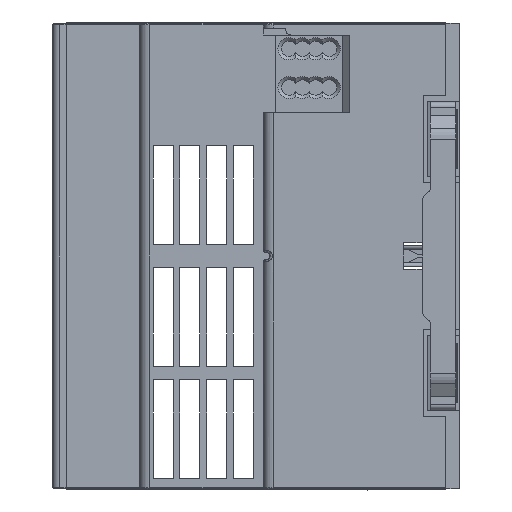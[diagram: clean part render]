
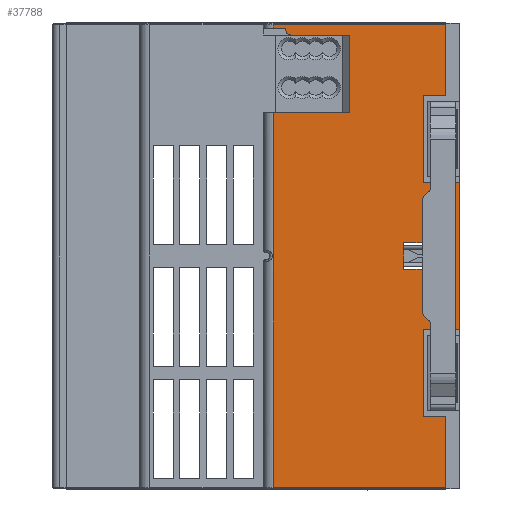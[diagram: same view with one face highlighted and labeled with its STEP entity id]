
A CAD part, left-side view. The second image highlights one B-rep face of the part: STEP entity #37788.
In plain terms, the highlighted planar face has unit normal (-1, 0, 0).
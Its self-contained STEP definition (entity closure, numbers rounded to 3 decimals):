
#1153=CIRCLE('',#46242,0.8);
#8891=ORIENTED_EDGE('',*,*,#15711,.F.);
#8892=ORIENTED_EDGE('',*,*,#15712,.T.);
#8893=ORIENTED_EDGE('',*,*,#15713,.F.);
#8894=ORIENTED_EDGE('',*,*,#15714,.T.);
#8895=ORIENTED_EDGE('',*,*,#15715,.T.);
#8896=ORIENTED_EDGE('',*,*,#15716,.F.);
#8897=ORIENTED_EDGE('',*,*,#15717,.F.);
#8898=ORIENTED_EDGE('',*,*,#15718,.F.);
#8899=ORIENTED_EDGE('',*,*,#15719,.T.);
#8900=ORIENTED_EDGE('',*,*,#15720,.T.);
#8901=ORIENTED_EDGE('',*,*,#15721,.F.);
#8902=ORIENTED_EDGE('',*,*,#15722,.F.);
#8903=ORIENTED_EDGE('',*,*,#15723,.T.);
#8904=ORIENTED_EDGE('',*,*,#15724,.F.);
#8905=ORIENTED_EDGE('',*,*,#15725,.F.);
#8906=ORIENTED_EDGE('',*,*,#15726,.F.);
#8907=ORIENTED_EDGE('',*,*,#15727,.T.);
#8908=ORIENTED_EDGE('',*,*,#15728,.F.);
#8909=ORIENTED_EDGE('',*,*,#15729,.F.);
#8910=ORIENTED_EDGE('',*,*,#15730,.F.);
#8911=ORIENTED_EDGE('',*,*,#15731,.F.);
#8912=ORIENTED_EDGE('',*,*,#15732,.F.);
#8913=ORIENTED_EDGE('',*,*,#15733,.F.);
#8914=ORIENTED_EDGE('',*,*,#15734,.F.);
#8915=ORIENTED_EDGE('',*,*,#15735,.T.);
#8916=ORIENTED_EDGE('',*,*,#15736,.T.);
#8917=ORIENTED_EDGE('',*,*,#15737,.T.);
#15711=EDGE_CURVE('',#20178,#20179,#24981,.T.);
#15712=EDGE_CURVE('',#20178,#20180,#24982,.T.);
#15713=EDGE_CURVE('',#20181,#20180,#24983,.T.);
#15714=EDGE_CURVE('',#20181,#20182,#24984,.T.);
#15715=EDGE_CURVE('',#20182,#20183,#24985,.T.);
#15716=EDGE_CURVE('',#20184,#20183,#24986,.T.);
#15717=EDGE_CURVE('',#20185,#20184,#24987,.T.);
#15718=EDGE_CURVE('',#20179,#20185,#24988,.T.);
#15719=EDGE_CURVE('',#20186,#20187,#24989,.T.);
#15720=EDGE_CURVE('',#20187,#20188,#24990,.T.);
#15721=EDGE_CURVE('',#20189,#20188,#24991,.T.);
#15722=EDGE_CURVE('',#20190,#20189,#24992,.T.);
#15723=EDGE_CURVE('',#20190,#20191,#24993,.T.);
#15724=EDGE_CURVE('',#20192,#20191,#24994,.T.);
#15725=EDGE_CURVE('',#20193,#20192,#24995,.T.);
#15726=EDGE_CURVE('',#20194,#20193,#24996,.T.);
#15727=EDGE_CURVE('',#20194,#20195,#24997,.T.);
#15728=EDGE_CURVE('',#20196,#20195,#24998,.T.);
#15729=EDGE_CURVE('',#20197,#20196,#24999,.T.);
#15730=EDGE_CURVE('',#20198,#20197,#25000,.T.);
#15731=EDGE_CURVE('',#20199,#20198,#25001,.T.);
#15732=EDGE_CURVE('',#20200,#20199,#25002,.T.);
#15733=EDGE_CURVE('',#20201,#20200,#25003,.T.);
#15734=EDGE_CURVE('',#20202,#20201,#25004,.T.);
#15735=EDGE_CURVE('',#20202,#20203,#25005,.T.);
#15736=EDGE_CURVE('',#20203,#20204,#25006,.T.);
#15737=EDGE_CURVE('',#20204,#20186,#1153,.T.);
#20178=VERTEX_POINT('',#66611);
#20179=VERTEX_POINT('',#66612);
#20180=VERTEX_POINT('',#66614);
#20181=VERTEX_POINT('',#66616);
#20182=VERTEX_POINT('',#66618);
#20183=VERTEX_POINT('',#66620);
#20184=VERTEX_POINT('',#66622);
#20185=VERTEX_POINT('',#66624);
#20186=VERTEX_POINT('',#66627);
#20187=VERTEX_POINT('',#66628);
#20188=VERTEX_POINT('',#66630);
#20189=VERTEX_POINT('',#66632);
#20190=VERTEX_POINT('',#66634);
#20191=VERTEX_POINT('',#66636);
#20192=VERTEX_POINT('',#66638);
#20193=VERTEX_POINT('',#66640);
#20194=VERTEX_POINT('',#66642);
#20195=VERTEX_POINT('',#66644);
#20196=VERTEX_POINT('',#66646);
#20197=VERTEX_POINT('',#66648);
#20198=VERTEX_POINT('',#66650);
#20199=VERTEX_POINT('',#66652);
#20200=VERTEX_POINT('',#66654);
#20201=VERTEX_POINT('',#66656);
#20202=VERTEX_POINT('',#66658);
#20203=VERTEX_POINT('',#66660);
#20204=VERTEX_POINT('',#66662);
#24981=LINE('',#66610,#29962);
#24982=LINE('',#66613,#29963);
#24983=LINE('',#66615,#29964);
#24984=LINE('',#66617,#29965);
#24985=LINE('',#66619,#29966);
#24986=LINE('',#66621,#29967);
#24987=LINE('',#66623,#29968);
#24988=LINE('',#66625,#29969);
#24989=LINE('',#66626,#29970);
#24990=LINE('',#66629,#29971);
#24991=LINE('',#66631,#29972);
#24992=LINE('',#66633,#29973);
#24993=LINE('',#66635,#29974);
#24994=LINE('',#66637,#29975);
#24995=LINE('',#66639,#29976);
#24996=LINE('',#66641,#29977);
#24997=LINE('',#66643,#29978);
#24998=LINE('',#66645,#29979);
#24999=LINE('',#66647,#29980);
#25000=LINE('',#66649,#29981);
#25001=LINE('',#66651,#29982);
#25002=LINE('',#66653,#29983);
#25003=LINE('',#66655,#29984);
#25004=LINE('',#66657,#29985);
#25005=LINE('',#66659,#29986);
#25006=LINE('',#66661,#29987);
#29962=VECTOR('',#54400,1000.);
#29963=VECTOR('',#54401,1000.);
#29964=VECTOR('',#54402,1000.);
#29965=VECTOR('',#54403,1000.);
#29966=VECTOR('',#54404,1000.);
#29967=VECTOR('',#54405,1000.);
#29968=VECTOR('',#54406,1000.);
#29969=VECTOR('',#54407,1000.);
#29970=VECTOR('',#54408,1000.);
#29971=VECTOR('',#54409,1000.);
#29972=VECTOR('',#54410,1000.);
#29973=VECTOR('',#54411,1000.);
#29974=VECTOR('',#54412,1000.);
#29975=VECTOR('',#54413,1000.);
#29976=VECTOR('',#54414,1000.);
#29977=VECTOR('',#54415,1000.);
#29978=VECTOR('',#54416,1000.);
#29979=VECTOR('',#54417,1000.);
#29980=VECTOR('',#54418,1000.);
#29981=VECTOR('',#54419,1000.);
#29982=VECTOR('',#54420,1000.);
#29983=VECTOR('',#54421,1000.);
#29984=VECTOR('',#54422,1000.);
#29985=VECTOR('',#54423,1000.);
#29986=VECTOR('',#54424,1000.);
#29987=VECTOR('',#54425,1000.);
#32442=EDGE_LOOP('',(#8891,#8892,#8893,#8894,#8895,#8896,#8897,#8898));
#32443=EDGE_LOOP('',(#8899,#8900,#8901,#8902,#8903,#8904,#8905,#8906,#8907,
#8908,#8909,#8910,#8911,#8912,#8913,#8914,#8915,#8916,#8917));
#34440=FACE_BOUND('',#32442,.T.);
#34441=FACE_BOUND('',#32443,.T.);
#36073=PLANE('',#46241);
#37788=ADVANCED_FACE('',(#34440,#34441),#36073,.T.);
#46241=AXIS2_PLACEMENT_3D('',#66609,#54398,#54399);
#46242=AXIS2_PLACEMENT_3D('',#66663,#54426,#54427);
#54398=DIRECTION('',(-1.,0.,0.));
#54399=DIRECTION('',(0.,0.,1.));
#54400=DIRECTION('',(0.,0.,1.));
#54401=DIRECTION('',(0.,1.,0.));
#54402=DIRECTION('',(0.,0.,-1.));
#54403=DIRECTION('',(0.,1.,0.));
#54404=DIRECTION('',(0.,0.,1.));
#54405=DIRECTION('',(0.,1.,0.));
#54406=DIRECTION('',(0.,0.,-1.));
#54407=DIRECTION('',(0.,1.,0.));
#54408=DIRECTION('',(0.,-1.,0.));
#54409=DIRECTION('',(0.,0.,-1.));
#54410=DIRECTION('',(0.,-1.,0.));
#54411=DIRECTION('',(0.,0.,1.));
#54412=DIRECTION('',(0.,-1.,0.));
#54413=DIRECTION('',(0.,0.,-1.));
#54414=DIRECTION('',(0.,-1.,0.));
#54415=DIRECTION('',(0.,0.,-1.));
#54416=DIRECTION('',(0.,-1.,0.));
#54417=DIRECTION('',(0.,0.,-1.));
#54418=DIRECTION('',(0.,-1.,0.));
#54419=DIRECTION('',(0.,0.,-1.));
#54420=DIRECTION('',(0.,1.,0.));
#54421=DIRECTION('',(0.,0.,-1.));
#54422=DIRECTION('',(0.,-1.,0.));
#54423=DIRECTION('',(0.,0.,1.));
#54424=DIRECTION('',(0.,-1.,0.));
#54425=DIRECTION('',(0.,0.,-1.));
#54426=DIRECTION('',(-1.,0.,0.));
#54427=DIRECTION('',(0.,0.,1.));
#66609=CARTESIAN_POINT('',(-41.246,0.352,-0.389));
#66610=CARTESIAN_POINT('',(-41.246,3.163,-36.051));
#66611=CARTESIAN_POINT('',(-41.246,3.163,-38.5));
#66612=CARTESIAN_POINT('',(-41.246,3.163,-31.5));
#66613=CARTESIAN_POINT('',(-41.246,3.163,-38.5));
#66614=CARTESIAN_POINT('',(-41.246,5.613,-38.5));
#66615=CARTESIAN_POINT('',(-41.246,5.613,-37.));
#66616=CARTESIAN_POINT('',(-41.246,5.613,-37.));
#66617=CARTESIAN_POINT('',(-41.246,5.613,-37.));
#66618=CARTESIAN_POINT('',(-41.246,8.663,-37.));
#66619=CARTESIAN_POINT('',(-41.246,8.663,-0.389));
#66620=CARTESIAN_POINT('',(-41.246,8.663,-33.));
#66621=CARTESIAN_POINT('',(-41.246,4.355,-33.));
#66622=CARTESIAN_POINT('',(-41.246,5.613,-33.));
#66623=CARTESIAN_POINT('',(-41.246,5.613,-31.5));
#66624=CARTESIAN_POINT('',(-41.246,5.613,-31.5));
#66625=CARTESIAN_POINT('',(-41.246,3.163,-31.5));
#66626=CARTESIAN_POINT('',(-41.246,28.163,-1.95));
#66627=CARTESIAN_POINT('',(-41.246,25.523,-1.95));
#66628=CARTESIAN_POINT('',(-41.246,16.713,-1.95));
#66629=CARTESIAN_POINT('',(-41.246,16.713,-13.55));
#66630=CARTESIAN_POINT('',(-41.246,16.713,-13.55));
#66631=CARTESIAN_POINT('',(-41.246,28.163,-13.55));
#66632=CARTESIAN_POINT('',(-41.246,28.163,-13.55));
#66633=CARTESIAN_POINT('',(-41.246,28.163,-69.6));
#66634=CARTESIAN_POINT('',(-41.246,28.163,-69.6));
#66635=CARTESIAN_POINT('',(-41.246,28.163,-69.6));
#66636=CARTESIAN_POINT('',(-41.246,2.363,-69.6));
#66637=CARTESIAN_POINT('',(-41.246,2.363,-59.05));
#66638=CARTESIAN_POINT('',(-41.246,2.363,-59.05));
#66639=CARTESIAN_POINT('',(-41.246,5.663,-59.05));
#66640=CARTESIAN_POINT('',(-41.246,5.663,-59.05));
#66641=CARTESIAN_POINT('',(-41.246,5.663,-33.99));
#66642=CARTESIAN_POINT('',(-41.246,5.663,-45.95));
#66643=CARTESIAN_POINT('',(-41.246,0.352,-45.95));
#66644=CARTESIAN_POINT('',(-41.246,0.363,-45.95));
#66645=CARTESIAN_POINT('',(-41.246,0.363,-33.799));
#66646=CARTESIAN_POINT('',(-41.246,0.363,-24.05));
#66647=CARTESIAN_POINT('',(-41.246,5.663,-24.05));
#66648=CARTESIAN_POINT('',(-41.246,5.663,-24.05));
#66649=CARTESIAN_POINT('',(-41.246,5.663,-33.99));
#66650=CARTESIAN_POINT('',(-41.246,5.663,-10.95));
#66651=CARTESIAN_POINT('',(-41.246,2.363,-10.95));
#66652=CARTESIAN_POINT('',(-41.246,2.363,-10.95));
#66653=CARTESIAN_POINT('',(-41.246,2.363,-35.));
#66654=CARTESIAN_POINT('',(-41.246,2.363,-0.4));
#66655=CARTESIAN_POINT('',(-41.246,28.163,-0.4));
#66656=CARTESIAN_POINT('',(-41.246,28.163,-0.4));
#66657=CARTESIAN_POINT('',(-41.246,28.163,-69.6));
#66658=CARTESIAN_POINT('',(-41.246,28.163,-0.95));
#66659=CARTESIAN_POINT('',(-41.246,0.352,-0.95));
#66660=CARTESIAN_POINT('',(-41.246,26.323,-0.95));
#66661=CARTESIAN_POINT('',(-41.246,26.323,-1.));
#66662=CARTESIAN_POINT('',(-41.246,26.323,-1.15));
#66663=CARTESIAN_POINT('',(-41.246,25.523,-1.15));
